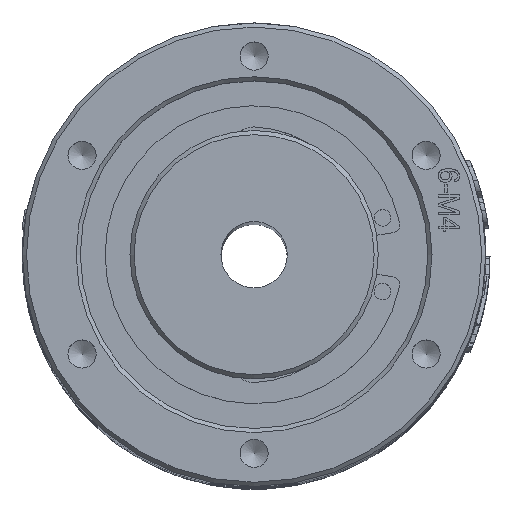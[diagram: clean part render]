
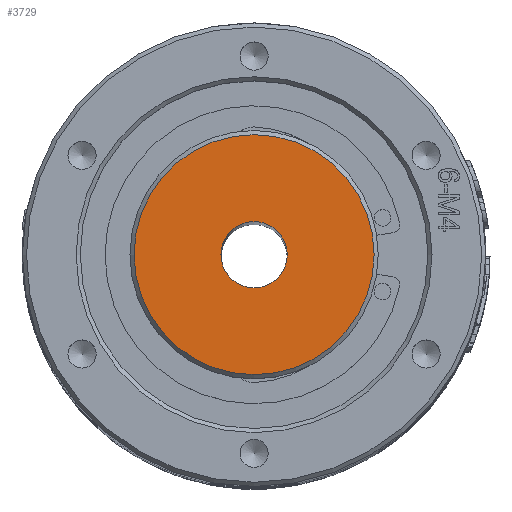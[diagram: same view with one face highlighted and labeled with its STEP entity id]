
A CAD part, top view. The second image highlights one B-rep face of the part: STEP entity #3729.
In plain terms, the highlighted planar face has unit normal (0, 0, 1).
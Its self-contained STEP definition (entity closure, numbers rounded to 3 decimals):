
#618=FACE_BOUND('',#8561,.T.);
#619=FACE_BOUND('',#8562,.T.);
#1229=CIRCLE('',#26901,14.5);
#1230=CIRCLE('',#26903,4.);
#1985=PLANE('',#26904);
#3729=ADVANCED_FACE('',(#618,#619),#1985,.T.);
#8561=EDGE_LOOP('',(#13627));
#8562=EDGE_LOOP('',(#13628));
#13627=ORIENTED_EDGE('',*,*,#21899,.T.);
#13628=ORIENTED_EDGE('',*,*,#21900,.T.);
#18542=VERTEX_POINT('',#48794);
#18543=VERTEX_POINT('',#48797);
#21899=EDGE_CURVE('',#18542,#18542,#1229,.T.);
#21900=EDGE_CURVE('',#18543,#18543,#1230,.T.);
#26901=AXIS2_PLACEMENT_3D('',#48793,#29996,#29997);
#26903=AXIS2_PLACEMENT_3D('',#48796,#30000,#30001);
#26904=AXIS2_PLACEMENT_3D('',#48798,#30002,#30003);
#29996=DIRECTION('',(0.,0.,1.));
#29997=DIRECTION('',(1.,0.,0.));
#30000=DIRECTION('',(0.,0.,-1.));
#30001=DIRECTION('',(1.,0.,0.));
#30002=DIRECTION('',(0.,0.,1.));
#30003=DIRECTION('',(1.,0.,0.));
#48793=CARTESIAN_POINT('',(0.,0.,202.5));
#48794=CARTESIAN_POINT('',(14.5,0.,202.5));
#48796=CARTESIAN_POINT('',(0.,0.,202.5));
#48797=CARTESIAN_POINT('',(4.,0.,202.5));
#48798=CARTESIAN_POINT('',(0.,0.,202.5));
